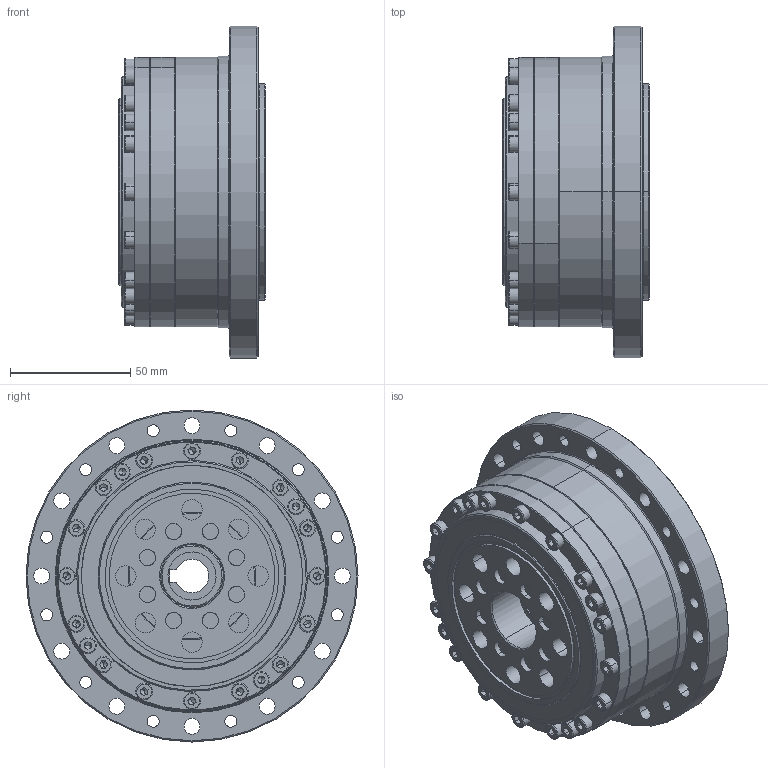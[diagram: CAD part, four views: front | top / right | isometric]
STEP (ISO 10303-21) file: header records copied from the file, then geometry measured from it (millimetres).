
FILE_DESCRIPTION (( 'STEP AP203' ), '1' );
FILE_NAME ('LCSG-32-XXX-C-I.STEP', '2016-08-18T02:18:54', ( 'Windows 蚚誧' ), ( 'Users' ), 'SwSTEP 2.0', 'SolidWorks 2013', '' );
FILE_SCHEMA (( 'CONFIG_CONTROL_DESIGN' ));
Length unit declared in the file: millimetre
Products named in the file (16): ﾊｮﾗﾖﾇﾐｲﾛｳﾁﾍｷﾂﾝｶ､ M3 x 6_ISO 7046-1 - M3 x 6 - Z --- 6C; socket head cap screw_din_DIN 912 M8 x 25 --- 25N; 疏楷汜ん-32G-I; socket head cap screw_din_内六角圆柱头螺钉M4 x 25; LCSG-32-XXX-C-I; socket head cap screw_din_内六角圆柱头螺钉M4 x 16; LCSG-32-XXX-P03-I; LCSG-32-XXX-P01-I; DB-32G-I; LCSG-32-XXX-P02-I; RZC-32G内外圈+钢球; LCSG-32-XXX-P04-I; RZC-32悵厥殤; 15Z-78926; 柔性轴承RZC-32G; LCSG-32-XXX-P05-I
Assembly tree (43 placements, depth 4):
  LCSG-32-XXX-C-I
    LCSG-32-XXX-P01-I
    LCSG-32-XXX-P02-I
    LCSG-32-XXX-P04-I
    15Z-78926
    LCSG-32-XXX-P05-I
    socket head cap screw_din_DIN 912 M8 x 25 --- 25N  x8
    socket head cap screw_din_内六角圆柱头螺钉M4 x 25  x16
    socket head cap screw_din_内六角圆柱头螺钉M4 x 16  x4
    疏楷汜ん-32G-I
      LCSG-32-XXX-P03-I
      DB-32G-I
      柔性轴承RZC-32G
        RZC-32G内外圈+钢球
        RZC-32悵厥殤
      ﾊｮﾗﾖﾇﾐｲﾛｳﾁﾍｷﾂﾝｶ､ M3 x 6_ISO 7046-1 - M3 x 6 - Z --- 6C  x4
Bounding box: 61 x 138 x 138 mm (x, y, z)
Volume: 422217.7 mm3; surface area: 209646.6 mm2
Topology: 66 solids, 67 shells, 1599 faces, 3752 edges, 2253 vertices
Faces by surface type: plane 613, cylinder 528, cone 254, torus 158, sphere 46
Entity records: 26291 total; most frequent: DIRECTION 4716, CARTESIAN_POINT 3950, ORIENTED_EDGE 3730, AXIS2_PLACEMENT_3D 2015, EDGE_CURVE 1865, VERTEX_POINT 1197, CIRCLE 1166, EDGE_LOOP 1064
